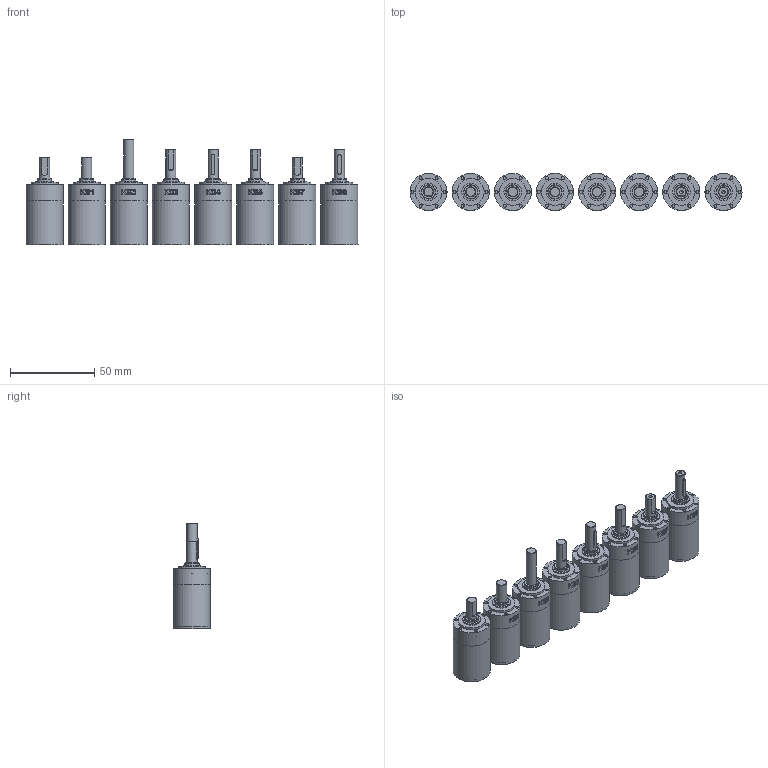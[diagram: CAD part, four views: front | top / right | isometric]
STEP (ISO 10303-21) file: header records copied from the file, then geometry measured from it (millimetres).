
FILE_DESCRIPTION(/* description */ (''),/* implementation_level */ '2;1');
FILE_NAME(/* name */ '22gpt_HT-3stage_standard+KSx.stp',/* time_stamp */ '2025-05-05T14:07:54+02:00',/* author */ ('DR. FRITZ FAULHABER GmbH & Co. KG'),/* organization */ ('DR. FRITZ FAULHABER GmbH & Co. KG'),/* preprocessor_version */ 'ST-DEVELOPER v19.3',/* originating_system */ 'SIEMENS PLM Software NX2212.4000',/* authorisation */ '');
FILE_SCHEMA (('AUTOMOTIVE_DESIGN { 1 0 10303 214 3 1 1 1 }'));
Length unit declared in the file: millimetre
Products named in the file (1): A_objects
Bounding box: 197 x 22 x 62.6 mm (x, y, z)
Volume: 108151.6 mm3; surface area: 32186.4 mm2
Topology: 8 solids, 8 shells, 518 faces, 1084 edges, 743 vertices
Faces by surface type: plane 245, cylinder 173, bspline 89, cone 11
Full cylindrical faces by diameter (mm): 1.75 x48, 2.05 x2, 6 x8, 8 x8, 8.4 x8, 10.068 x8, 10.5 x8, 12 x8, 16 x8, 20.8 x8, 21 x8, 21.999 x8, 22 x16
Entity records: 24249 total; most frequent: CARTESIAN_POINT 13444, ORIENTED_EDGE 1716, DIRECTION 1686, EDGE_CURVE 858, EDGE_LOOP 832, AXIS2_PLACEMENT_3D 784, VERTEX_POINT 672, FACE_BOUND 561
